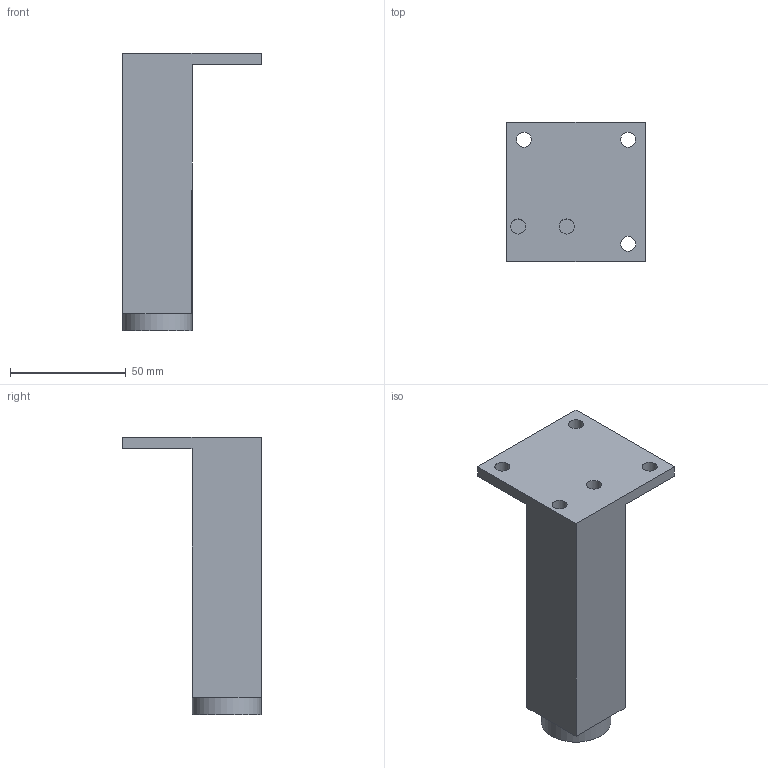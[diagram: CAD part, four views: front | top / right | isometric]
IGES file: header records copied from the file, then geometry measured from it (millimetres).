
Start section: Data from Parasolid IGES Translator 20.0.26, Copyright(c) 2006 Siemens P LM Software. All Rights Reserved.
Global section: file name: 9119447.igs; native system: By Siemens PLM Incorporated; preprocessor: XPlus GENERIC/IGES 20.0.26; author: Noname; organization: Noname; date: 20210125.170430; units: millimetre
Bounding box: 60 x 60 x 120 mm (x, y, z)
Surface area: 22317.9 mm2 (no closed solid volume)
Topology: 0 solids, 0 shells, 21 faces, 92 edges, 83 vertices
Faces by surface type: extrusion 15, revolution 6
